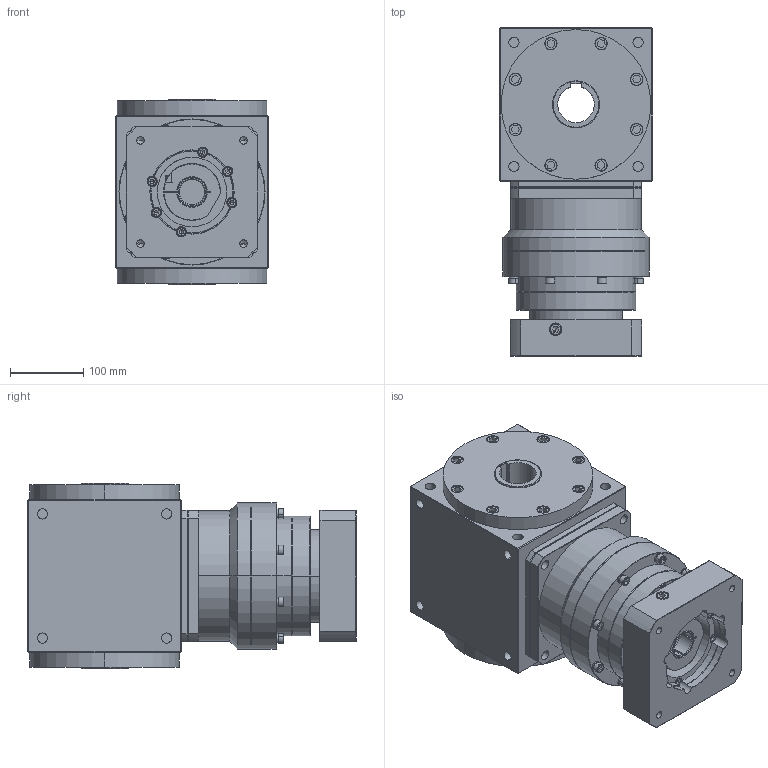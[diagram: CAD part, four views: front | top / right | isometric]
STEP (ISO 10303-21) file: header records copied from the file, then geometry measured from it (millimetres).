
FILE_DESCRIPTION (( 'STEP AP203' ), '1' );
FILE_NAME ('AT210-FH-L2 35-114.3-200-M12.STEP', '2024-12-30T02:13:36', ( '' ), ( '' ), 'SwSTEP 2.0', 'SolidWorks 2021', '' );
FILE_SCHEMA (( 'CONFIG_CONTROL_DESIGN' ));
Length unit declared in the file: millimetre
Products named in the file (3): AT210-FH-L2 35-114.3-200-M12; KS180L2-114.3-35-83-M12-200俋倛芞; AT210-FH
Assembly tree (2 placements, depth 2):
  AT210-FH-L2 35-114.3-200-M12
    AT210-FH
    KS180L2-114.3-35-83-M12-200俋倛芞
Bounding box: 210 x 449.5 x 254 mm (x, y, z)
Volume: 16069438.5 mm3; surface area: 854555.3 mm2
Topology: 45 solids, 45 shells, 1397 faces, 3326 edges, 2070 vertices
Faces by surface type: plane 674, cylinder 505, cone 176, bspline 42
Entity records: 41011 total; most frequent: CARTESIAN_POINT 8524, DIRECTION 6958, ORIENTED_EDGE 6532, EDGE_CURVE 3266, AXIS2_PLACEMENT_3D 2656, VERTEX_POINT 2070, VECTOR 1646, LINE 1646
